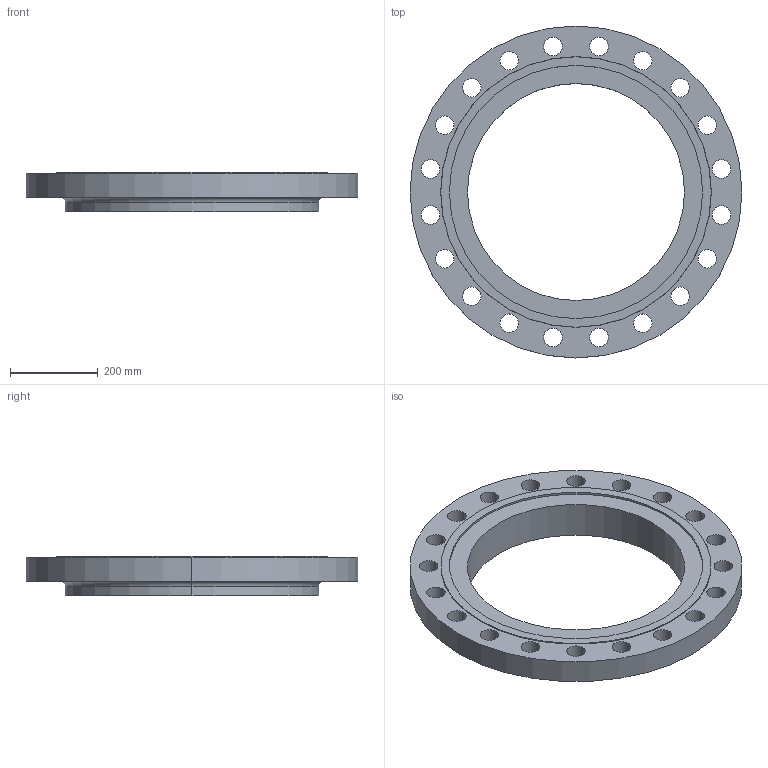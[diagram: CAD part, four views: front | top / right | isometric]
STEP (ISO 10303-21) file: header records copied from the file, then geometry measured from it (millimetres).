
FILE_DESCRIPTION (( 'STEP AP214' ), '1' );
FILE_NAME ('PN40 DN500 Type 13 - Type F Face.STEP', '2018-12-29T01:21:09', ( '' ), ( '' ), 'SwSTEP 2.0', 'SolidWorks 2019', '' );
FILE_SCHEMA (( 'AUTOMOTIVE_DESIGN' ));
Length unit declared in the file: millimetre
Products named in the file (1): PN40 DN500 Type 13 - Type F Face
Bounding box: 755 x 755 x 90 mm (x, y, z)
Volume: 14787769.2 mm3; surface area: 927543.5 mm2
Topology: 1 solids, 1 shells, 57 faces, 154 edges, 102 vertices
Faces by surface type: cylinder 48, plane 5, torus 2, cone 2
Entity records: 1974 total; most frequent: DIRECTION 374, CARTESIAN_POINT 314, ORIENTED_EDGE 308, AXIS2_PLACEMENT_3D 162, EDGE_CURVE 154, CIRCLE 104, VERTEX_POINT 102, EDGE_LOOP 102
